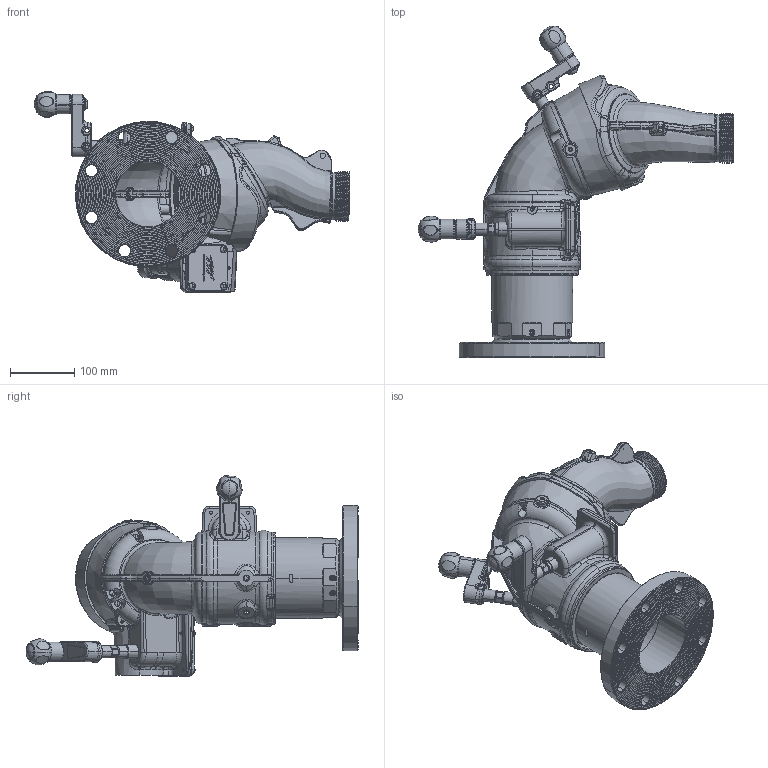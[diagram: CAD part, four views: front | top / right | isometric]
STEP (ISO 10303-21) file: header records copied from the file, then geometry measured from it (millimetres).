
FILE_DESCRIPTION (( 'STEP AP203' ), '1' );
FILE_NAME ('Y4-M25A-Z_Horizontal.STEP', '2014-07-03T18:03:57', ( '' ), ( '' ), 'SwSTEP 2.0', 'SolidWorks 2014', '' );
FILE_SCHEMA (( 'CONFIG_CONTROL_DESIGN' ));
Length unit declared in the file: inch
Products named in the file (1): Y4-M25A-Z_Horizontal
Bounding box: 490.04 x 515.31 x 311.49 mm (x, y, z)
Surface area: 643902.9 mm2 (no closed solid volume)
Topology: 0 solids, 90 shells, 1990 faces, 6372 edges, 4348 vertices
Faces by surface type: plane 480, bspline 450, cylinder 433, torus 385, cone 218, sphere 24
Entity records: 119191 total; most frequent: CARTESIAN_POINT 68476, ORIENTED_EDGE 10698, DIRECTION 9403, EDGE_CURVE 6339, VERTEX_POINT 4339, AXIS2_PLACEMENT_3D 3642, EDGE_LOOP 2204, LINE 2119
